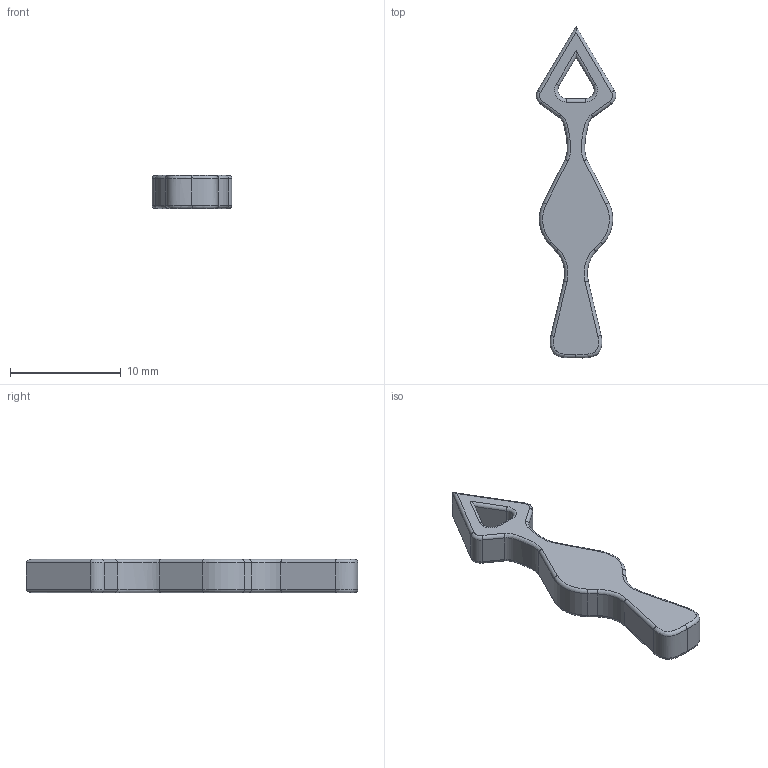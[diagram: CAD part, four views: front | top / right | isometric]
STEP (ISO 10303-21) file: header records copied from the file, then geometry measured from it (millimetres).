
FILE_DESCRIPTION(/* description */ ('Alibre Inc.'),/* implementation_level */ '2;1');
FILE_NAME(/* name */ 'export0',/* time_stamp */ '2009-10-05T12:15:10+02:00',/* author */ (''),/* organization */ (''),/* preprocessor_version */ 'ST-DEVELOPER v10',/* originating_system */ 'Alibre',/* authorisation */ '');
FILE_SCHEMA (('ALIBRE_SCHEMA','CONFIG_CONTROL_DESIGN'));
Length unit declared in the file: centimetre
Products named in the file (1): ID_1
Bounding box: 7.2 x 30 x 3 mm (x, y, z)
Volume: 319.6 mm3; surface area: 438.7 mm2
Topology: 1 solids, 1 shells, 77 faces, 175 edges, 100 vertices
Faces by surface type: cylinder 34, torus 16, plane 15, bspline 12
Entity records: 7396 total; most frequent: CARTESIAN_POINT 2810, PERSISTANTTOPOLOGYATTRIBUTE 619, DIRECTION 555, CONSTRAINTPAIRUV 474, ORIENTED_EDGE 350, VECTOR 305, REFERENCEPOINTUV 244, REFERENCEDEPENDENTUV 239
